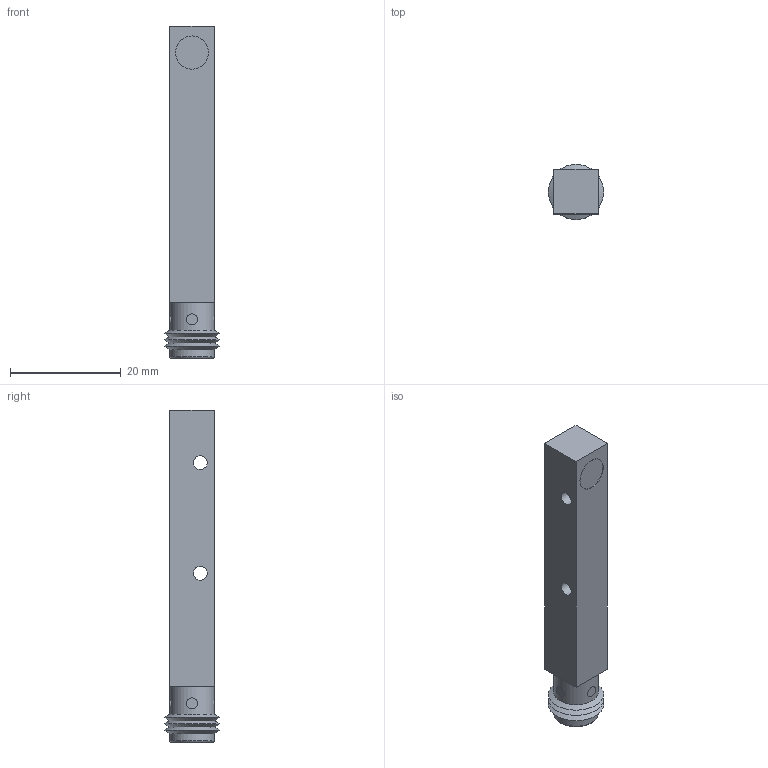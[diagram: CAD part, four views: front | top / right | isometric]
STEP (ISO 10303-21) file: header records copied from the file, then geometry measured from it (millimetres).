
FILE_DESCRIPTION(('FreeCAD Model'),'2;1');
FILE_NAME('Open CASCADE Shape Model','2024-10-01T09:09:40',( 'Thomas Reinhold'),('Eickmann Elektronik GmbH&.Co'), 'Open CASCADE STEP processor 7.6','FreeCAD','Unknown');
FILE_SCHEMA(('AUTOMOTIVE_DESIGN { 1 0 10303 214 1 1 1 1 }'));
Length unit declared in the file: millimetre
Products named in the file (5): DCGQL_8_ST3; Body; Body001; Zylinder; Zylinder001
Assembly tree (4 placements, depth 2):
  DCGQL_8_ST3
    Body
    Body001
    Zylinder
    Zylinder001
Bounding box: 10 x 10 x 60 mm (x, y, z)
Volume: 3508 mm3; surface area: 2565.6 mm2
Topology: 4 solids, 4 shells, 36 faces, 65 edges, 40 vertices
Faces by surface type: plane 15, cylinder 11, cone 6, sphere 3, torus 1
Full cylindrical faces by diameter (mm): 1 x3, 2 x2, 2.5 x2, 6 x1, 7.5 x1, 8 x2
Entity records: 1228 total; most frequent: DIRECTION 177, CARTESIAN_POINT 143, ORIENTED_EDGE 124, AXIS2_PLACEMENT_3D 74, EDGE_CURVE 62, FACE_BOUND 46, EDGE_LOOP 46, VERTEX_POINT 40
